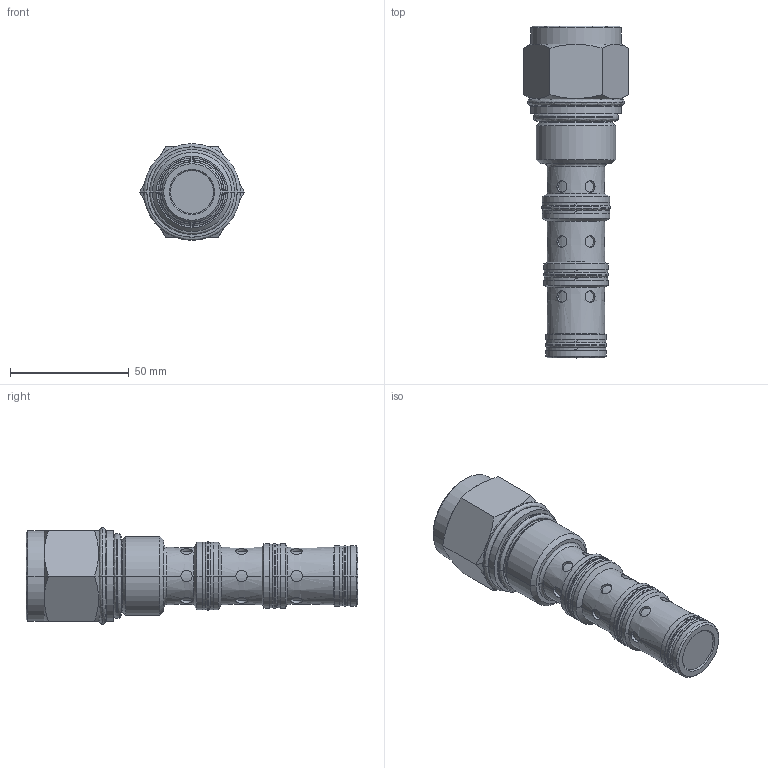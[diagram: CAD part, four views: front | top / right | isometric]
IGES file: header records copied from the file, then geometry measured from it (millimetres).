
Start section:  PTC IGES file: DCPS-16-E-F.igs
Global section: file name: DCPS-16-E-F.igs; native system: Creo Elements/Pro by Parametric Technology Corporation; preprocessor: 2015070; author: torrese; organization: Unknown; date: 20151222.112600; units: inch
Bounding box: 43.99 x 139.45 x 40.64 mm (x, y, z)
Volume: 103017 mm3; surface area: 17641.5 mm2
Topology: 1 solids, 1 shells, 215 faces, 468 edges, 280 vertices
Faces by surface type: revolution 176, bspline 39
